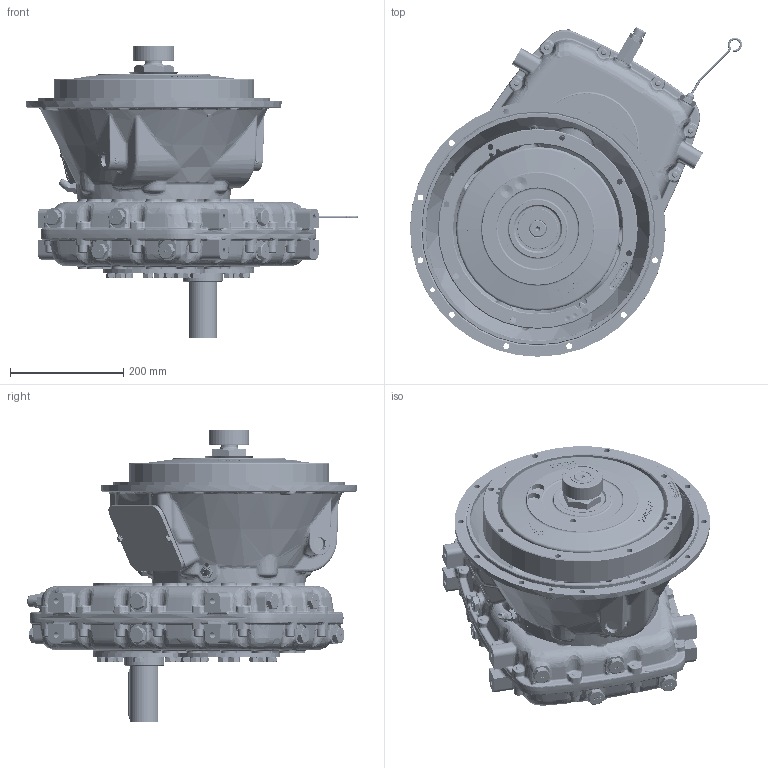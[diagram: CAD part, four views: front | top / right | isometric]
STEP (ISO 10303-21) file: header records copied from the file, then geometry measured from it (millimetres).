
FILE_DESCRIPTION (( 'STEP AP214' ), '1' );
FILE_NAME ('1029011M.STEP', '2018-04-10T14:58:20', ( 'utente' ), ( 'Hewlett-Packard Company' ), 'SwSTEP 2.0', 'SolidWorks 2015', '' );
FILE_SCHEMA (( 'AUTOMOTIVE_DESIGN' ));
Length unit declared in the file: millimetre
Products named in the file (9): 1029011M; PX1031736D; ITam110-019-installation; IT4588002_rev00-installation; ITam110-006_rev00-installation; ITam110-013_rev01-installation; IT1048010_rev01-installation; IT0001009_rev00-installation; ITBC1210000-installation
Assembly tree (8 placements, depth 2):
  1029011M
    ITBC1210000-installation
    IT0001009_rev00-installation
    IT1048010_rev01-installation
    ITam110-013_rev01-installation
    ITam110-006_rev00-installation
    IT4588002_rev00-installation
    ITam110-019-installation
    PX1031736D
Bounding box: 585.62 x 581.41 x 516.6 mm (x, y, z)
Volume: 8266380.2 mm3; surface area: 2325312.1 mm2
Topology: 59 solids, 162 shells, 7836 faces, 19101 edges, 11718 vertices
Faces by surface type: bspline 2347, plane 2345, cylinder 1558, torus 712, cone 615, sphere 259
Full cylindrical faces by diameter (mm): 2.5 x2, 4 x4, 5.04 x2, 6 x5, 6.35 x2, 6.502 x3, 6.528 x1, 7.95 x2, 8 x5, 8.5 x46, 9 x1, 9.525 x4, 10 x78, 10.2 x40, 10.3 x12, 10.32 x8, 10.716 x2, 11 x32, 12 x43, 12.16 x4, 12.5 x2, 12.573 x2, 12.7 x2, 12.88 x2, 13 x7, 14 x7, 14.252 x2, 15 x1, 16 x16, 16.2 x16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
Entity records: 419466 total; most frequent: CARTESIAN_POINT 170686, ORIENTED_EDGE 35389, DIRECTION 29043, EDGE_CURVE 17695, AXIS2_PLACEMENT_3D 11747, VERTEX_POINT 11407, EDGE_LOOP 9365, FACE_OUTER_BOUND 8456
